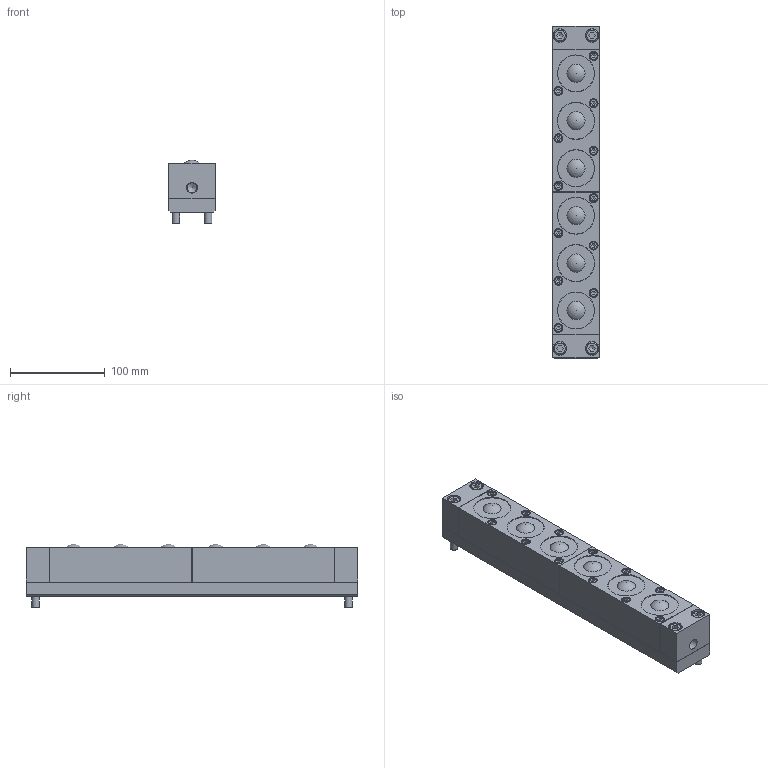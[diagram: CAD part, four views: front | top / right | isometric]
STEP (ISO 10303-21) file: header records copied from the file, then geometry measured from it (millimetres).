
FILE_DESCRIPTION(/* description */ (''),/* implementation_level */ '2;1');
FILE_NAME(/* name */ 'Z:\34-Tei\01-web 3Dデータ\41-ISR-50S型\ISR-50S-350-A.stp',/* time_stamp */ '2015-01-16T09:36:01+09:00',/* author */ ('yamaki'),/* organization */ (''),/* preprocessor_version */ 'ST-DEVELOPER v15.6',/* originating_system */ 'Autodesk Inventor 2015',/* authorisation */ '');
FILE_SCHEMA (('AUTOMOTIVE_DESIGN { 1 0 10303 214 3 1 1 }'));
Length unit declared in the file: millimetre
Products named in the file (5): 4200AT-01-350; 六角穴付きボルト-M8x55; 4200AT-00; 4200AT-03; ISR-50S
Bounding box: 49.5 x 350 x 67 mm (x, y, z)
Volume: 852490.2 mm3; surface area: 197861.2 mm2
Topology: 11 solids, 11 shells, 356 faces, 743 edges, 474 vertices
Faces by surface type: plane 235, cylinder 67, cone 30, torus 18, sphere 6
Full cylindrical faces by diameter (mm): 8 x2, 8.5 x12, 9 x2, 9.5 x12, 10.5 x1, 13 x4, 14.5 x4, 31.7 x6, 38.5 x6, 39 x6, 42 x12
Entity records: 4927 total; most frequent: CARTESIAN_POINT 876, DIRECTION 792, ORIENTED_EDGE 682, EDGE_CURVE 341, AXIS2_PLACEMENT_3D 287, EDGE_LOOP 280, VERTEX_POINT 245, LINE 218
